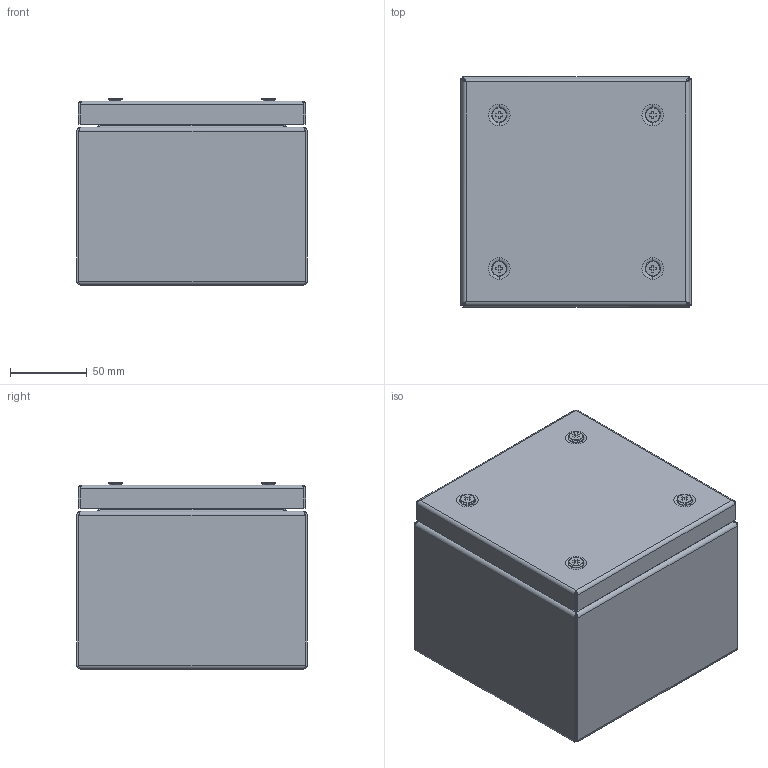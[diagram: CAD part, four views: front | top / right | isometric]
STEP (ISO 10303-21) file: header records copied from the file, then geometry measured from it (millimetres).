
FILE_DESCRIPTION (( 'STEP AP203' ), '1' );
FILE_NAME ('BSS 15.15.12-L Êîðîáêà êëåììíàÿ èç íåðæ. ñòàëè.STEP', '2025-05-06T09:50:21', ( '' ), ( '' ), 'SwSTEP 2.0', 'SolidWorks 2019', '' );
FILE_SCHEMA (( 'CONFIG_CONTROL_DESIGN' ));
Length unit declared in the file: millimetre
Products named in the file (13): Øïèëüêà çàçåìëåíèÿ Ì6õ17,5_v.2_˜¯¨«ìª  § §¥¬«¥­¨ï Œ6å17,5 á ª®«¯ çª®¬; BSS X.Y.Z.01.001 扻豵鵨_BSS 15.15.12.01.001; 妈眚 襦祛磬疱玎栝_4,8x11; BSS X.Y.02.001-L Êðûøêà êëåììíàÿ_BSS 15.15.02.001-L; BSS 15.15.12-L Êîðîáêà êëåììíàÿ èç íåðæ. ñòàëè; Ãàéêà çàêëàäíàÿ êâàäðàòíàÿ îö. Ì5_ƒ ©ª  § ª« ¤­ ï ª¢ ¤à â­ ï ®æ. Œ5 1,7-2,7; BSS X.002 扰鍙欙樥燲BSS 15.002; BSS X.Y.02.000-L ÑÁ Êðûøêà êëåììíàÿ_BSS 15.15.02.000-L; ﾘ琺矜 5 ﾃﾎﾑﾒ 11371-78_Washer DIN 126 - 5.5; MPB X.Y.001 Ìîíòàæíàÿ ïàíåëü_MPB 15.15.001 Œ®­â ¦­ ï ¯ ­¥«ì; BSS Y.003-L 赶鎀鍧_BSS 15.003-L; BSS X.Y.Z.01.000-L 蚜 暑痫篑 觌屐祉 疋囵眍開BSS 15.15.12.01.000-L; 妈眚 礤恹镟溧栝 镱蜞轫铋 梦岩 10339-80_M5x32
Assembly tree (25 placements, depth 3):
  BSS 15.15.12-L Êîðîáêà êëåììíàÿ èç íåðæ. ñòàëè
    BSS X.Y.Z.01.000-L 蚜 暑痫篑 觌屐祉 疋囵眍開BSS 15.15.12.01.000-L
      BSS X.Y.Z.01.001 扻豵鵨_BSS 15.15.12.01.001
      BSS X.002 扰鍙欙樥燲BSS 15.002  x2
      Øïèëüêà çàçåìëåíèÿ Ì6õ17,5_v.2_˜¯¨«ìª  § §¥¬«¥­¨ï Œ6å17,5 á ª®«¯ çª®¬
      BSS Y.003-L 赶鎀鍧_BSS 15.003-L  x2
    BSS X.Y.02.000-L ÑÁ Êðûøêà êëåììíàÿ_BSS 15.15.02.000-L
      BSS X.Y.02.001-L Êðûøêà êëåììíàÿ_BSS 15.15.02.001-L
      Øïèëüêà çàçåìëåíèÿ Ì6õ17,5_v.2_˜¯¨«ìª  § §¥¬«¥­¨ï Œ6å17,5 á ª®«¯ çª®¬
    MPB X.Y.001 Ìîíòàæíàÿ ïàíåëü_MPB 15.15.001 Œ®­â ¦­ ï ¯ ­¥«ì
    妈眚 襦祛磬疱玎栝_4,8x11  x2
    ﾘ琺矜 5 ﾃﾎﾑﾒ 11371-78_Washer DIN 126 - 5.5  x4
    妈眚 礤恹镟溧栝 镱蜞轫铋 梦岩 10339-80_M5x32  x4
    Ãàéêà çàêëàäíàÿ êâàäðàòíàÿ îö. Ì5_ƒ ©ª  § ª« ¤­ ï ª¢ ¤à â­ ï ®æ. Œ5 1,7-2,7  x4
Bounding box: 150 x 150 x 121.5 mm (x, y, z)
Volume: 218505.2 mm3; surface area: 341206 mm2
Topology: 30 solids, 30 shells, 1538 faces, 3653 edges, 2189 vertices
Faces by surface type: plane 885, cylinder 459, cone 82, bspline 76, torus 36
Entity records: 28403 total; most frequent: CARTESIAN_POINT 9157, ORIENTED_EDGE 3732, DIRECTION 3537, EDGE_CURVE 1866, AXIS2_PLACEMENT_3D 1204, VECTOR 1129, LINE 1129, VERTEX_POINT 1127
